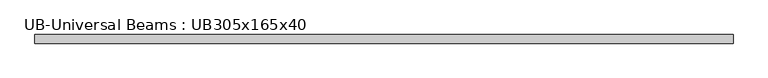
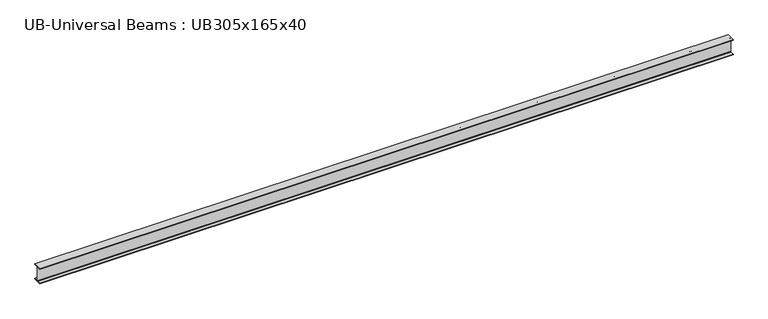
"""IFC4 building model written with IfcOpenShell, lengths in millimetres: beam geometry, UB-Universal Beams : UB305x165x40."""

from ifc_helpers import new_model, si_unit, point, frame, frame_2d, origin, place, context, project, spatial, polyline, circle_curve, trimmed, segment, composite_curve, outline, extrude, source, transform, mapped, element, save


def ub_universal_beams_ub305x165x40_d7a34fde(model_context):
    return source(origin(), model_context, "Body", "SweptSolid", [
        extrude(outline(composite_curve([segment(polyline([(82.5, -141.5), (82.5, -151.7), (-82.5, -151.7), (-82.5, -141.5), (-11.9, -141.5)]), True, "CONTINUOUS"), segment(trimmed(circle_curve(frame_2d((-11.9, -132.6)), 8.9), [point((-11.9, -141.5))], [point((-3.0, -132.6))], True, "CARTESIAN"), True, "CONTINUOUS"), segment(polyline([(-3.0, -132.6), (-3.0, 132.6)]), True, "CONTINUOUS"), segment(trimmed(circle_curve(frame_2d((-11.9, 132.6)), 8.9), [point((-3.0, 132.6))], [point((-11.9, 141.5))], True, "CARTESIAN"), True, "CONTINUOUS"), segment(polyline([(-11.9, 141.5), (-82.5, 141.5), (-82.5, 151.7), (82.5, 151.7), (82.5, 141.5), (11.9, 141.5)]), True, "CONTINUOUS"), segment(trimmed(circle_curve(frame_2d((11.9, 132.6)), 8.9), [point((11.9, 141.5))], [point((3.0, 132.6))], True, "CARTESIAN"), True, "CONTINUOUS"), segment(polyline([(3.0, 132.6), (3.0, -132.6)]), True, "CONTINUOUS"), segment(trimmed(circle_curve(frame_2d((11.9, -132.6)), 8.9), [point((3.0, -132.6))], [point((11.9, -141.5))], True, "CARTESIAN"), True, "CONTINUOUS"), segment(polyline([(11.9, -141.5), (82.5, -141.5)]), True, "CONTINUOUS")], self_intersect=False)), frame((-6687.85, 0.0, 0.0), z_axis=(1.0, 0.0, 0.0), x_axis=(0.0, 1.0, 0.0)), (0.0, 0.0, 1.0), 13304.5),
    ])


if __name__ == "__main__":
    model = new_model("IFC4")
    model_context = context("Model", 3, world=origin())
    ifc_project = project(units=[si_unit("LENGTHUNIT", "METRE", prefix="MILLI")], contexts=[model_context])
    site = spatial("IfcSite", under=ifc_project)
    building = spatial("IfcBuilding", under=site)
    placement = place(None, origin())
    ub_universal_beams_ub305x165x40_shape = ub_universal_beams_ub305x165x40_d7a34fde(model_context)
    element("IfcBeam", 1, ObjectType="UB-Universal Beams : UB305x165x40", at=placement, inside=building, context=model_context, shape_type="MappedRepresentation", body=[
        mapped(ub_universal_beams_ub305x165x40_shape, transform((0.0, 0.0, 0.0), x_axis=(1.0, 0.0, 0.0), y_axis=(0.0, 1.0, 0.0), z_axis=(0.0, 0.0, 1.0))),
    ])
    save(model, "model.ifc")
